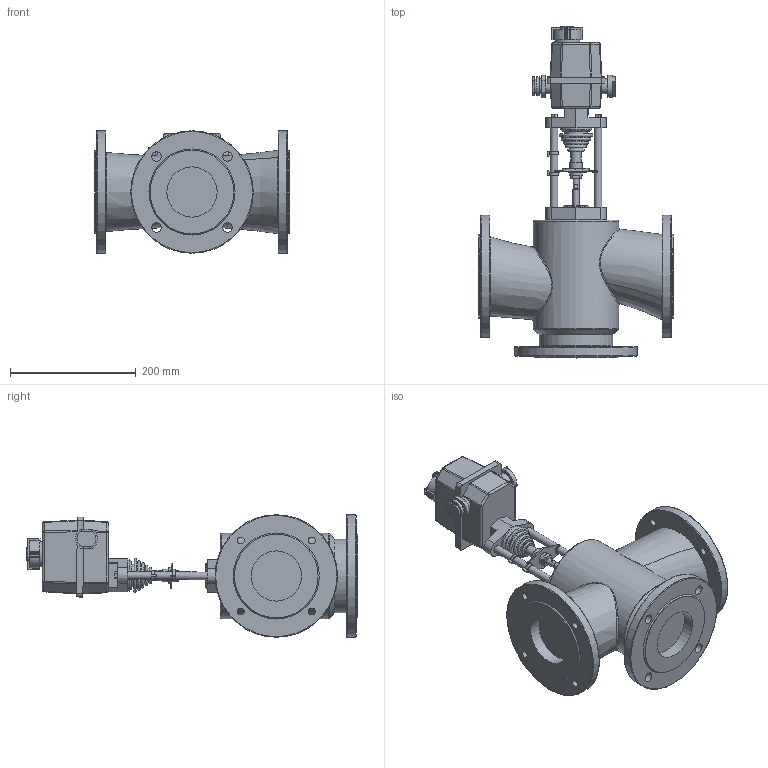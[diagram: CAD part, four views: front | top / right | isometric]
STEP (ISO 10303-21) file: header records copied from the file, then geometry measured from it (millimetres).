
FILE_DESCRIPTION(/* description */ (''),/* implementation_level */ '2;1');
FILE_NAME(/* name */ 'D:\Работа\work by\2017.01.17. клапаны для КПСР 3-хходоввые\Готовые файлы\ST 0\ду 80-1.stp',/* time_stamp */ '2017-02-19T16:21:31+03:00',/* author */ ('Admin'),/* organization */ ('unknown'),/* preprocessor_version */ 'ST-DEVELOPER v16.1',/* originating_system */ 'Autodesk Inventor 2016',/* authorisation */ '');
FILE_SCHEMA (('AUTOMOTIVE_DESIGN { 1 0 10303 214 3 1 1 }'));
Length unit declared in the file: millimetre
Products named in the file (1): ду 80-1
Bounding box: 310 x 528.43 x 195 mm (x, y, z)
Volume: 7022828 mm3; surface area: 449308 mm2
Topology: 1 solids, 3 shells, 407 faces, 1019 edges, 654 vertices
Faces by surface type: plane 204, cylinder 137, torus 33, sphere 16, cone 9, bspline 8
Full cylindrical faces by diameter (mm): 8.5 x1, 9.6 x1, 10 x1, 11 x8, 12 x4, 15 x4, 16 x1, 20 x3, 22.287 x1, 22.5 x1, 24 x4, 24.3 x1, 25 x1, 29.215 x1, 30.24 x1, 35 x2, 36 x1, 36.144 x1, 40 x3, 43.072 x1, 44 x1, 50 x1, 80 x3, 117.8 x1, 133 x3, 136.4 x1, 195 x3
Entity records: 13305 total; most frequent: CARTESIAN_POINT 3782, DIRECTION 2024, ORIENTED_EDGE 1818, EDGE_CURVE 909, AXIS2_PLACEMENT_3D 769, VERTEX_POINT 627, EDGE_LOOP 564, LINE 486
